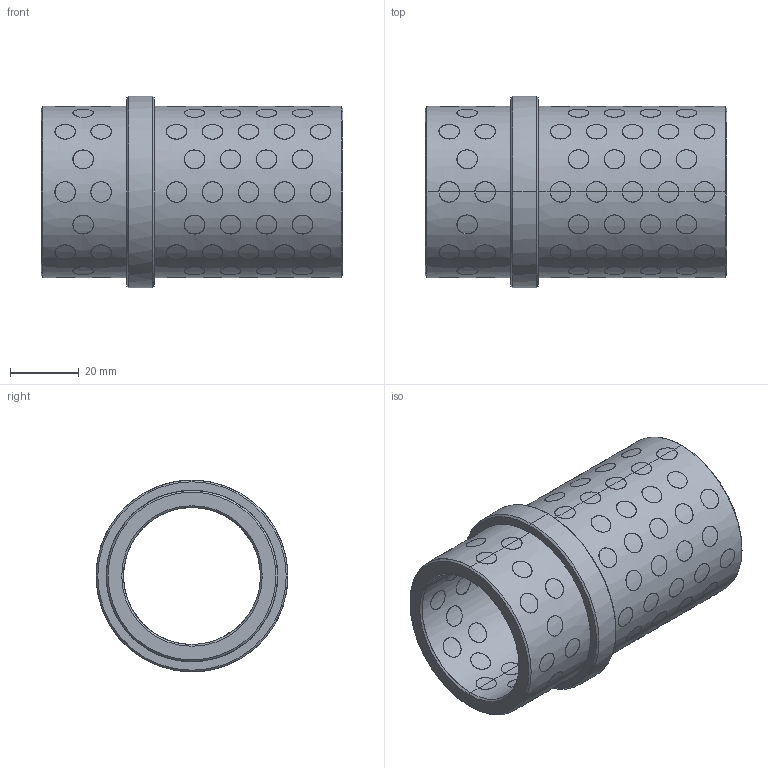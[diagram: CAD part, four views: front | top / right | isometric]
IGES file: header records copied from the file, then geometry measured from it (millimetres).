
Start section: START RECORD GO HERE.
Global section: file name: G4024063.igs; native system: DASSAULT SYSTEMES CATIA V5 R20 - www.3ds.com; preprocessor: CATIA Version 5 Release 20 ; author: r.borello; organization: CFTORINO; date: 20190624.143625; units: millimetre
Bounding box: 88 x 56 x 56 mm (x, y, z)
Surface area: 45186.5 mm2 (no closed solid volume)
Topology: 0 solids, 0 shells, 628 faces, 2736 edges, 2736 vertices
Faces by surface type: revolution 624, plane 4
